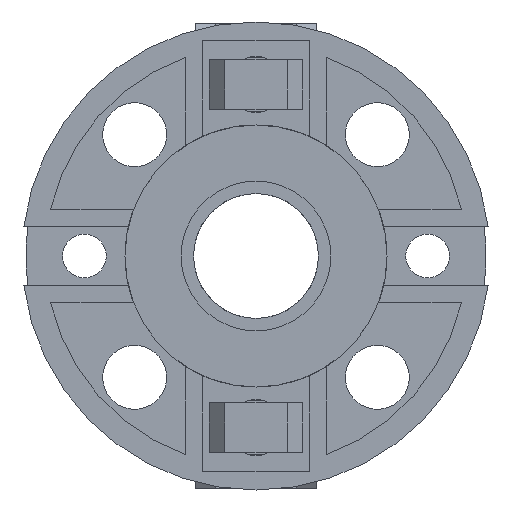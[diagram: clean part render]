
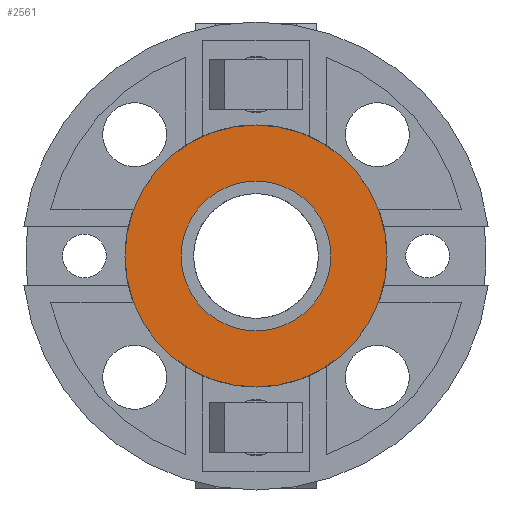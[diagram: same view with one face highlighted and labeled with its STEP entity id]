
A CAD part, front view. The second image highlights one B-rep face of the part: STEP entity #2561.
In plain terms, the highlighted planar face has unit normal (0, -1, 0).
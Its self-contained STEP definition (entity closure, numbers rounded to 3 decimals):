
#352 = CIRCLE ( 'NONE', #7079, 42. ) ;
#633 = EDGE_CURVE ( 'Defeatured_0_116+Defeatured_0_207+Defeatured_0_207+Defeatured_0_207', #7977, #4930, #7018, .T. ) ;
#676 = CARTESIAN_POINT ( 'NONE',  ( 0., -3., -42. ) ) ;
#727 = FACE_OUTER_BOUND ( 'NONE', #3342, .T. ) ;
#1259 = AXIS2_PLACEMENT_3D ( 'NONE', #2760, #6074, #7957 ) ;
#1273 = DIRECTION ( 'NONE',  ( 0., 0., 1. ) ) ;
#1386 = CARTESIAN_POINT ( 'NONE',  ( 0., -3., -24. ) ) ;
#1605 = DIRECTION ( 'NONE',  ( 0., 0., 1. ) ) ;
#1641 = ORIENTED_EDGE ( 'NONE', *, *, #6832, .F. ) ;
#1883 = DIRECTION ( 'NONE',  ( 0., 1., 0. ) ) ;
#2105 = AXIS2_PLACEMENT_3D ( 'NONE', #3479, #7303, #6106 ) ;
#2245 = VERTEX_POINT ( 'NONE', #7648 ) ;
#2265 = AXIS2_PLACEMENT_3D ( 'NONE', #7758, #1883, #1273 ) ;
#2561 = ADVANCED_FACE ( 'Defeatured_0_116', ( #6619, #727 ), #3433, .F. ) ;
#2760 = CARTESIAN_POINT ( 'NONE',  ( 0., -3., 0. ) ) ;
#3178 = EDGE_CURVE ( 'Defeatured_0_116+Defeatured_0_207+Defeatured_0_207+Defeatured_0_207', #4930, #7977, #7877, .T. ) ;
#3249 = ORIENTED_EDGE ( 'NONE', *, *, #3178, .T. ) ;
#3342 = EDGE_LOOP ( 'NONE', ( #1641, #8285 ) ) ;
#3433 = PLANE ( 'NONE',  #2105 ) ;
#3479 = CARTESIAN_POINT ( 'NONE',  ( 0., -3., 0. ) ) ;
#3787 = EDGE_CURVE ( 'Defeatured_0_117+Defeatured_0_116+Defeatured_0_116+Defeatured_0_116', #2245, #5990, #6497, .T. ) ;
#4178 = DIRECTION ( 'NONE',  ( 0., 0., 1. ) ) ;
#4916 = CARTESIAN_POINT ( 'NONE',  ( 0., -3., 0. ) ) ;
#4930 = VERTEX_POINT ( 'NONE', #7875 ) ;
#5505 = EDGE_LOOP ( 'NONE', ( #6837, #3249 ) ) ;
#5543 = AXIS2_PLACEMENT_3D ( 'NONE', #4916, #7368, #4178 ) ;
#5990 = VERTEX_POINT ( 'NONE', #676 ) ;
#6074 = DIRECTION ( 'NONE',  ( 0., 1., 0. ) ) ;
#6106 = DIRECTION ( 'NONE',  ( 0., 0., 1. ) ) ;
#6497 = CIRCLE ( 'NONE', #5543, 42. ) ;
#6619 = FACE_BOUND ( 'NONE', #5505, .T. ) ;
#6832 = EDGE_CURVE ( 'Defeatured_0_117+Defeatured_0_116+Defeatured_0_116+Defeatured_0_116', #5990, #2245, #352, .T. ) ;
#6837 = ORIENTED_EDGE ( 'NONE', *, *, #633, .T. ) ;
#7018 = CIRCLE ( 'NONE', #1259, 24. ) ;
#7079 = AXIS2_PLACEMENT_3D ( 'NONE', #7952, #7399, #1605 ) ;
#7303 = DIRECTION ( 'NONE',  ( 0., 1., 0. ) ) ;
#7368 = DIRECTION ( 'NONE',  ( 0., 1., 0. ) ) ;
#7399 = DIRECTION ( 'NONE',  ( 0., 1., 0. ) ) ;
#7648 = CARTESIAN_POINT ( 'NONE',  ( 0., -3., 42. ) ) ;
#7758 = CARTESIAN_POINT ( 'NONE',  ( 0., -3., 0. ) ) ;
#7875 = CARTESIAN_POINT ( 'NONE',  ( 0., -3., 24. ) ) ;
#7877 = CIRCLE ( 'NONE', #2265, 24. ) ;
#7952 = CARTESIAN_POINT ( 'NONE',  ( 0., -3., 0. ) ) ;
#7957 = DIRECTION ( 'NONE',  ( 0., 0., 1. ) ) ;
#7977 = VERTEX_POINT ( 'NONE', #1386 ) ;
#8285 = ORIENTED_EDGE ( 'NONE', *, *, #3787, .F. ) ;
